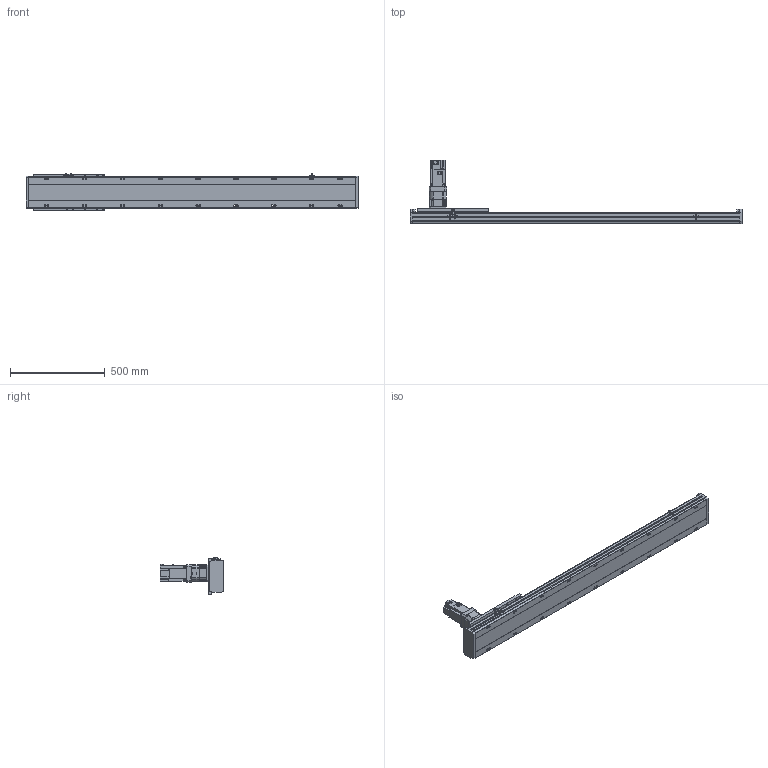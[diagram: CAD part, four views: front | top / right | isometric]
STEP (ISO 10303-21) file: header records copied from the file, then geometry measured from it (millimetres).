
FILE_DESCRIPTION(/* description */ ('STEP AP203'),/* implementation_level */ '2;1');
FILE_NAME(/* name */ 'SHS17A-L13-S1300-BC-T75-C1-N(0)',/* time_stamp */ '2023-03-27T08:57:30+02:00',/* author */ ('License CC BY-ND 4.0'),/* organization */ ('CADENAS'),/* preprocessor_version */ 'ST-DEVELOPER v19.3',/* originating_system */ 'PARTsolutions',/* authorisation */ ' ');
FILE_SCHEMA (('CONFIG_CONTROL_DESIGN'));
Length unit declared in the file: millimetre
Products named in the file (7): SHS17A-L13-S1300-BC-T75-C1-N(0); PSC140-sensor; SHS17A-S1300(0)_body2; T75-p1; SHS17A-S1300_body3; SHS17A-S1300-C1(0)_slider; SHS17A-S1300-C1(0)_body
Assembly tree (13 placements, depth 2):
  SHS17A-L13-S1300-BC-T75-C1-N(0)
    PSC140-sensor  x3
    SHS17A-S1300(0)_body2  x6
    T75-p1
    SHS17A-S1300_body3
    SHS17A-S1300-C1(0)_slider
    SHS17A-S1300-C1(0)_body
Bounding box: 1754 x 333.8 x 193.4 mm (x, y, z)
Volume: 13768958.6 mm3; surface area: 1640317.5 mm2
Topology: 13 solids, 13 shells, 1944 faces, 4916 edges, 3205 vertices
Faces by surface type: plane 1286, cylinder 583, cone 72, torus 3
Full cylindrical faces by diameter (mm): 2.8 x3, 4.134 x24, 4.5 x2, 4.6 x3, 4.917 x15, 5.5 x48, 6 x7, 6.5 x24, 6.647 x26, 6.8 x9, 8 x3, 8.5 x18, 10 x28, 11 x4, 14 x18, 22 x1, 24 x1, 24.2 x1, 28 x1, 28.2 x1, 28.8 x1, 29.8 x1, 48.542 x1, 68 x1, 70 x1, 78 x1, 80 x2
Entity records: 34878 total; most frequent: CARTESIAN_POINT 6558, DIRECTION 5773, ORIENTED_EDGE 5508, EDGE_CURVE 2754, AXIS2_PLACEMENT_3D 2004, VERTEX_POINT 1933, LINE 1765, VECTOR 1765
